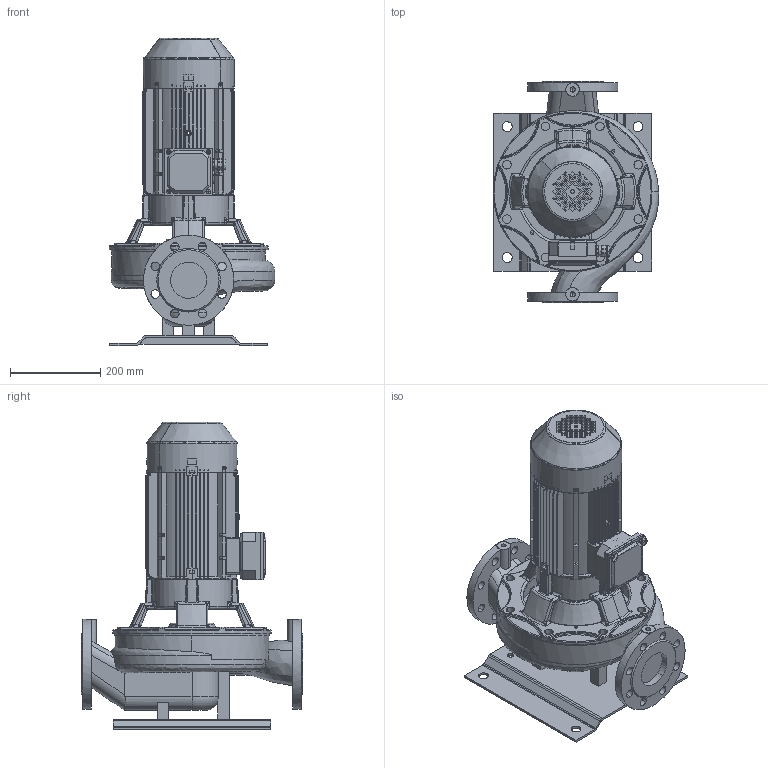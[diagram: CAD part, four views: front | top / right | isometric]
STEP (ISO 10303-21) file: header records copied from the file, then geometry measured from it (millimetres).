
FILE_DESCRIPTION(('STEP AP214'),'1');
FILE_NAME('export.stp','2018-05-29T07:43:13',(' '),(' '),'Spatial InterOp 3D',' ',' ');
FILE_SCHEMA(('AUTOMOTIVE_DESIGN { 1 0 10303 214 1 1 1 1 }'));
Length unit declared in the file: millimetre
Products named in the file (24): W_L80S4300_KP-100; V_TLL50S80S; V_PPL80S; P100496; P100495; P100342; 160012; 160010; V_MKP100_2F29; 160141; 160137; 160138; 160139; 160140; Koura_Ale_M5; Plug_Blind_M20; Sealing_Plug_M20; DIN_7985-M5X8; DIN_7985-M5X12; 480041; 480040___; 480043; 480042___; 160136
Assembly tree (27 placements, depth 4):
  W_L80S4300_KP-100
    V_TLL50S80S
    V_PPL80S
    P100496
      P100495  x2
      P100342
    V_MKP100_2F29
      160012
        160010
      160141
        160137
        160138
        160139
        160140
        Koura_Ale_M5
        Plug_Blind_M20
        Sealing_Plug_M20
        DIN_7985-M5X8
        DIN_7985-M5X12  x4
      480041
        480040___
      480043
        480042___
      160136
Bounding box: 367 x 490 x 681 mm (x, y, z)
Volume: 13927618.7 mm3; surface area: 2373540.8 mm2
Topology: 21 solids, 21 shells, 2581 faces, 6837 edges, 4291 vertices
Faces by surface type: plane 1048, cylinder 763, bspline 310, torus 258, cone 175, sphere 27
Entity records: 100703 total; most frequent: CARTESIAN_POINT 36526, ORIENTED_EDGE 13242, DIRECTION 12174, EDGE_CURVE 6621, AXIS2_PLACEMENT_3D 4615, VERTEX_POINT 4187, LINE 2944, VECTOR 2944
